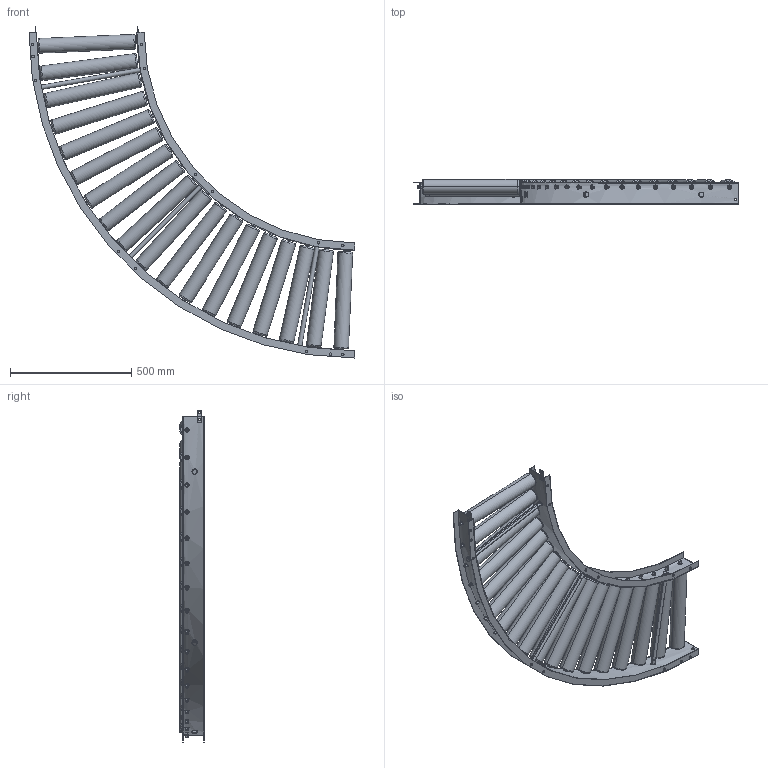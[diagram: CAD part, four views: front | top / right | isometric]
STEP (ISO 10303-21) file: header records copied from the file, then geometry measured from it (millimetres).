
FILE_DESCRIPTION (( 'STEP AP203' ), '1' );
FILE_NAME ('ARS-6015_C.step', '2024-03-15T02:30:16', ( '' ), ( '' ), 'SwSTEP 2.0', 'SolidWorks 2023', '' );
FILE_SCHEMA (( 'CONFIG_CONTROL_DESIGN' ));
Length unit declared in the file: millimetre
Products named in the file (1): ARS-6015_C
Bounding box: 1345 x 101.75 x 1370.08 mm (x, y, z)
Volume: 21372138.5 mm3; surface area: 3441304.3 mm2
Topology: 55 solids, 55 shells, 820 faces, 1896 edges, 1228 vertices
Faces by surface type: cylinder 406, plane 306, torus 72, cone 36
Entity records: 30605 total; most frequent: CARTESIAN_POINT 11349, DIRECTION 4102, ORIENTED_EDGE 3792, EDGE_CURVE 1896, AXIS2_PLACEMENT_3D 1701, VERTEX_POINT 1228, EDGE_LOOP 1068, CIRCLE 880
